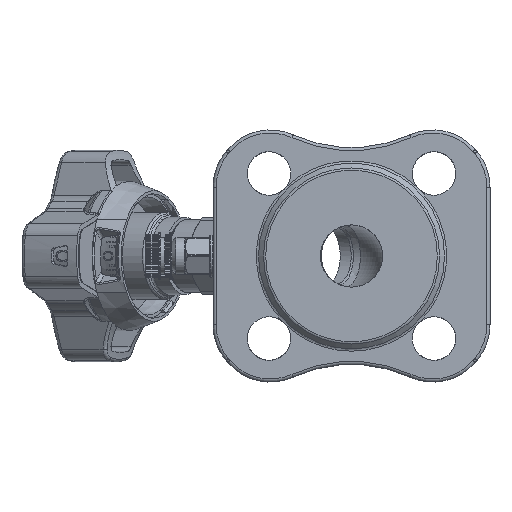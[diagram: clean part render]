
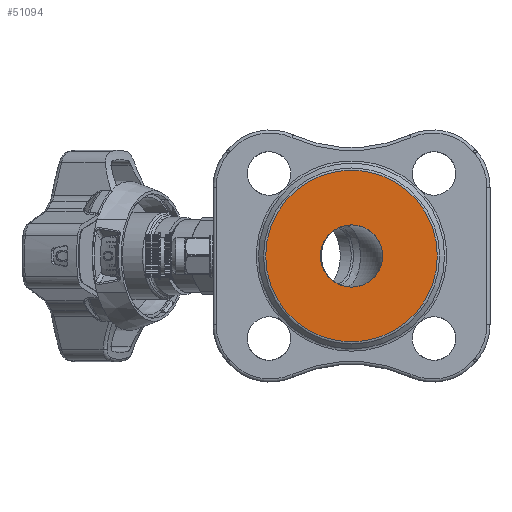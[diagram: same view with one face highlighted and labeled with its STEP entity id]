
A CAD part, left-side view. The second image highlights one B-rep face of the part: STEP entity #51094.
In plain terms, the highlighted planar face has unit normal (-1, 0, 0).
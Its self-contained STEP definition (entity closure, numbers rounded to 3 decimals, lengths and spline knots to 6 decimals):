
#890=FACE_BOUND('',#8897,.T.);
#3513=CIRCLE('',#54176,0.027586);
#3592=CIRCLE('',#54282,0.01);
#5961=FACE_OUTER_BOUND('',#8896,.T.);
#8896=EDGE_LOOP('',(#34214));
#8897=EDGE_LOOP('',(#34215));
#19992=VERTEX_POINT('',#73950);
#20091=VERTEX_POINT('',#74818);
#25381=EDGE_CURVE('',#19992,#19992,#3513,.T.);
#25493=EDGE_CURVE('',#20091,#20091,#3592,.T.);
#34214=ORIENTED_EDGE('',*,*,#25381,.T.);
#34215=ORIENTED_EDGE('',*,*,#25493,.F.);
#49613=PLANE('',#54441);
#51094=ADVANCED_FACE('',(#5961,#890),#49613,.T.);
#54176=AXIS2_PLACEMENT_3D('',#73951,#59226,#59227);
#54282=AXIS2_PLACEMENT_3D('',#74820,#59445,#59446);
#54441=AXIS2_PLACEMENT_3D('',#79224,#59898,#59899);
#59226=DIRECTION('center_axis',(-1.,0.,0.));
#59227=DIRECTION('ref_axis',(0.,0.,1.));
#59445=DIRECTION('center_axis',(-1.,0.,0.));
#59446=DIRECTION('ref_axis',(0.,0.,1.));
#59898=DIRECTION('center_axis',(-1.,0.,0.));
#59899=DIRECTION('ref_axis',(0.,0.,1.));
#73950=CARTESIAN_POINT('',(-0.075,0.,-0.027586));
#73951=CARTESIAN_POINT('Origin',(-0.075,0.,0.));
#74818=CARTESIAN_POINT('',(-0.075,0.,-0.01));
#74820=CARTESIAN_POINT('Origin',(-0.075,0.,0.));
#79224=CARTESIAN_POINT('Origin',(-0.075,-0.028,0.));
